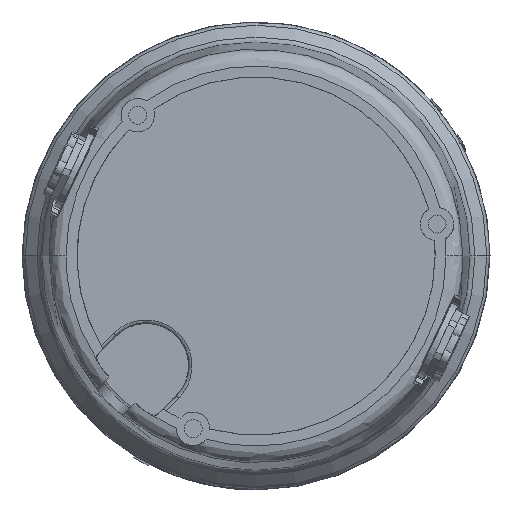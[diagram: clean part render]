
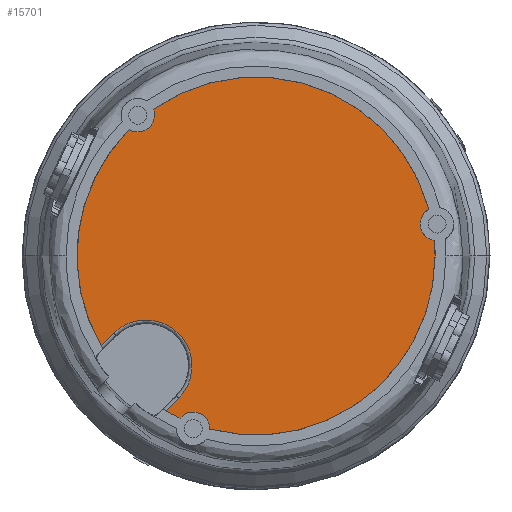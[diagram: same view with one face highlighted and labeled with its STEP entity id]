
A CAD part, front view. The second image highlights one B-rep face of the part: STEP entity #15701.
In plain terms, the highlighted planar face has unit normal (0, -1, 0).
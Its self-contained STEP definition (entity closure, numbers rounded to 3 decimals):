
#190 = CARTESIAN_POINT ( 'NONE',  ( 51.714, -69.5, 13.909 ) ) ;
#879 = VERTEX_POINT ( 'NONE', #6272 ) ;
#1276 = ORIENTED_EDGE ( 'NONE', *, *, #27824, .T. ) ;
#1379 = DIRECTION ( 'NONE',  ( 1., 0., 0. ) ) ;
#1561 = ORIENTED_EDGE ( 'NONE', *, *, #25082, .F. ) ;
#1636 = CIRCLE ( 'NONE', #7147, 5. ) ;
#1658 = VERTEX_POINT ( 'NONE', #8037 ) ;
#2056 = VERTEX_POINT ( 'NONE', #24035 ) ;
#2177 = AXIS2_PLACEMENT_3D ( 'NONE', #6884, #23382, #9237 ) ;
#3351 = ORIENTED_EDGE ( 'NONE', *, *, #17020, .F. ) ;
#3790 = CIRCLE ( 'NONE', #9298, 5. ) ;
#4011 = EDGE_CURVE ( 'NONE', #14540, #1658, #22065, .T. ) ;
#4099 = CIRCLE ( 'NONE', #22173, 53.552 ) ;
#4366 = VERTEX_POINT ( 'NONE', #15728 ) ;
#4374 = CIRCLE ( 'NONE', #2177, 53.552 ) ;
#4604 = CARTESIAN_POINT ( 'NONE',  ( -23.178, -69.5, -42.582 ) ) ;
#4881 = CARTESIAN_POINT ( 'NONE',  ( 0., -69.5, 0. ) ) ;
#5049 = VERTEX_POINT ( 'NONE', #5919 ) ;
#5059 = CARTESIAN_POINT ( 'NONE',  ( -22.678, -69.5, -48.513 ) ) ;
#5208 = DIRECTION ( 'NONE',  ( 0., 1., 0. ) ) ;
#5380 = CARTESIAN_POINT ( 'NONE',  ( -42.582, -69.5, -23.178 ) ) ;
#5515 = ORIENTED_EDGE ( 'NONE', *, *, #23129, .F. ) ;
#5919 = CARTESIAN_POINT ( 'NONE',  ( -13.811, -69.5, -51.683 ) ) ;
#6020 = EDGE_CURVE ( 'NONE', #4366, #26625, #3790, .T. ) ;
#6112 = CARTESIAN_POINT ( 'NONE',  ( -26.901, -69.5, -46.305 ) ) ;
#6176 = DIRECTION ( 'NONE',  ( 0., -1., 0. ) ) ;
#6272 = CARTESIAN_POINT ( 'NONE',  ( -42.582, -69.5, -23.178 ) ) ;
#6884 = CARTESIAN_POINT ( 'NONE',  ( 0., -69.5, 0. ) ) ;
#6960 = CARTESIAN_POINT ( 'NONE',  ( -3.774, -69.5, -23.178 ) ) ;
#6986 = AXIS2_PLACEMENT_3D ( 'NONE', #23096, #8930, #25382 ) ;
#7147 = AXIS2_PLACEMENT_3D ( 'NONE', #12537, #29010, #14896 ) ;
#7238 = DIRECTION ( 'NONE',  ( 1., 0., 0. ) ) ;
#7291 = EDGE_CURVE ( 'NONE', #4366, #26706, #8912, .T. ) ;
#7711 = VERTEX_POINT ( 'NONE', #5059 ) ;
#7816 = CARTESIAN_POINT ( 'NONE',  ( -35.353, -69.5, 42.132 ) ) ;
#8037 = CARTESIAN_POINT ( 'NONE',  ( 53.353, -69.5, 4.617 ) ) ;
#8288 = AXIS2_PLACEMENT_3D ( 'NONE', #29608, #15501, #1379 ) ;
#8577 = CARTESIAN_POINT ( 'NONE',  ( 0., -69.5, 0. ) ) ;
#8912 = CIRCLE ( 'NONE', #28877, 53.552 ) ;
#8930 = DIRECTION ( 'NONE',  ( 0., -1., 0. ) ) ;
#9026 = DIRECTION ( 'NONE',  ( 0., -1., 0. ) ) ;
#9237 = DIRECTION ( 'NONE',  ( 1., 0., 0. ) ) ;
#9298 = AXIS2_PLACEMENT_3D ( 'NONE', #7816, #24269, #10168 ) ;
#9318 = CARTESIAN_POINT ( 'NONE',  ( -42.582, -69.5, -23.178 ) ) ;
#9864 = EDGE_CURVE ( 'NONE', #24661, #1658, #1636, .T. ) ;
#9871 = LINE ( 'NONE', #5380, #27933 ) ;
#10168 = DIRECTION ( 'NONE',  ( 1., 0., 0. ) ) ;
#10564 = CIRCLE ( 'NONE', #6986, 5. ) ;
#10956 = DIRECTION ( 'NONE',  ( 1., 0., 0. ) ) ;
#10966 = CARTESIAN_POINT ( 'NONE',  ( -30.353, -69.5, 42.132 ) ) ;
#11198 = CARTESIAN_POINT ( 'NONE',  ( 0., -69.5, 0. ) ) ;
#12517 = CIRCLE ( 'NONE', #8288, 5. ) ;
#12537 = CARTESIAN_POINT ( 'NONE',  ( 54.164, -69.5, 9.551 ) ) ;
#13552 = DIRECTION ( 'NONE',  ( 1., 0., 0. ) ) ;
#13680 = VERTEX_POINT ( 'NONE', #25888 ) ;
#14540 = VERTEX_POINT ( 'NONE', #15416 ) ;
#14593 = EDGE_CURVE ( 'NONE', #15329, #14540, #25790, .T. ) ;
#14896 = DIRECTION ( 'NONE',  ( 1., 0., 0. ) ) ;
#15119 = AXIS2_PLACEMENT_3D ( 'NONE', #19303, #5208, #21674 ) ;
#15329 = VERTEX_POINT ( 'NONE', #20248 ) ;
#15331 = AXIS2_PLACEMENT_3D ( 'NONE', #23178, #9026, #25482 ) ;
#15416 = CARTESIAN_POINT ( 'NONE',  ( 53.552, -69.5, 0. ) ) ;
#15501 = DIRECTION ( 'NONE',  ( 0., -1., 0. ) ) ;
#15701 = ADVANCED_FACE ( 'NONE', ( #18725 ), #19197, .F. ) ;
#15728 = CARTESIAN_POINT ( 'NONE',  ( -37.903, -69.5, 37.831 ) ) ;
#16875 = AXIS2_PLACEMENT_3D ( 'NONE', #20276, #6176, #22687 ) ;
#16996 = ORIENTED_EDGE ( 'NONE', *, *, #17798, .F. ) ;
#17020 = EDGE_CURVE ( 'NONE', #2056, #879, #27325, .T. ) ;
#17209 = EDGE_CURVE ( 'NONE', #17289, #2056, #19680, .T. ) ;
#17241 = ORIENTED_EDGE ( 'NONE', *, *, #17209, .F. ) ;
#17289 = VERTEX_POINT ( 'NONE', #6112 ) ;
#17609 = EDGE_CURVE ( 'NONE', #879, #26706, #9871, .T. ) ;
#17798 = EDGE_CURVE ( 'NONE', #5049, #7711, #21315, .T. ) ;
#18725 = FACE_OUTER_BOUND ( 'NONE', #25069, .T. ) ;
#18841 = AXIS2_PLACEMENT_3D ( 'NONE', #11198, #27666, #13552 ) ;
#19197 = PLANE ( 'NONE',  #15119 ) ;
#19303 = CARTESIAN_POINT ( 'NONE',  ( 53.552, -69.5, 0. ) ) ;
#19335 = ORIENTED_EDGE ( 'NONE', *, *, #9864, .F. ) ;
#19680 = LINE ( 'NONE', #24522, #28517 ) ;
#19706 = DIRECTION ( 'NONE',  ( 0.707, 0., 0.707 ) ) ;
#20248 = CARTESIAN_POINT ( 'NONE',  ( -13.811, -69.5, -51.74 ) ) ;
#20276 = CARTESIAN_POINT ( 'NONE',  ( -18.811, -69.5, -51.683 ) ) ;
#21315 = CIRCLE ( 'NONE', #16875, 5. ) ;
#21364 = DIRECTION ( 'NONE',  ( 0., -1., 0. ) ) ;
#21674 = DIRECTION ( 'NONE',  ( -1., 0., 0. ) ) ;
#21850 = DIRECTION ( 'NONE',  ( -0.707, 0., -0.707 ) ) ;
#22065 = CIRCLE ( 'NONE', #15331, 53.552 ) ;
#22173 = AXIS2_PLACEMENT_3D ( 'NONE', #8577, #25028, #10956 ) ;
#22687 = DIRECTION ( 'NONE',  ( 1., 0., 0. ) ) ;
#23096 = CARTESIAN_POINT ( 'NONE',  ( -18.811, -69.5, -51.683 ) ) ;
#23129 = EDGE_CURVE ( 'NONE', #26625, #13680, #12517, .T. ) ;
#23178 = CARTESIAN_POINT ( 'NONE',  ( 0., -69.5, 0. ) ) ;
#23382 = DIRECTION ( 'NONE',  ( 0., -1., 0. ) ) ;
#23470 = CARTESIAN_POINT ( 'NONE',  ( -23.178, -69.5, -3.774 ) ) ;
#24035 = CARTESIAN_POINT ( 'NONE',  ( -23.178, -69.5, -42.582 ) ) ;
#24269 = DIRECTION ( 'NONE',  ( 0., -1., 0. ) ) ;
#24332 = ORIENTED_EDGE ( 'NONE', *, *, #4011, .T. ) ;
#24522 = CARTESIAN_POINT ( 'NONE',  ( -26.901, -69.5, -46.305 ) ) ;
#24661 = VERTEX_POINT ( 'NONE', #190 ) ;
#24687 = ORIENTED_EDGE ( 'NONE', *, *, #7291, .T. ) ;
#24991 = ORIENTED_EDGE ( 'NONE', *, *, #30407, .T. ) ;
#25028 = DIRECTION ( 'NONE',  ( 0., -1., 0. ) ) ;
#25069 = EDGE_LOOP ( 'NONE', ( #26476, #3351, #17241, #24991, #16996, #1561, #28190, #24332, #19335, #1276, #5515, #25424, #24687 ) ) ;
#25082 = EDGE_CURVE ( 'NONE', #15329, #5049, #10564, .T. ) ;
#25382 = DIRECTION ( 'NONE',  ( 1., 0., 0. ) ) ;
#25424 = ORIENTED_EDGE ( 'NONE', *, *, #6020, .F. ) ;
#25482 = DIRECTION ( 'NONE',  ( 1., 0., 0. ) ) ;
#25790 = CIRCLE ( 'NONE', #18841, 53.552 ) ;
#25888 = CARTESIAN_POINT ( 'NONE',  ( -30.675, -69.5, 43.896 ) ) ;
#26476 = ORIENTED_EDGE ( 'NONE', *, *, #17609, .F. ) ;
#26625 = VERTEX_POINT ( 'NONE', #10966 ) ;
#26706 = VERTEX_POINT ( 'NONE', #27631 ) ;
#27325 =( BOUNDED_CURVE ( )  B_SPLINE_CURVE ( 3, ( #4604, #6960, #23470, #9318 ),
 .UNSPECIFIED., .F., .F. ) 
 B_SPLINE_CURVE_WITH_KNOTS ( ( 4, 4 ),
 ( 0., 1. ),
 .UNSPECIFIED. ) 
 CURVE ( )  GEOMETRIC_REPRESENTATION_ITEM ( )  RATIONAL_B_SPLINE_CURVE ( ( 1., 0.333, 0.333, 1. ) ) 
 REPRESENTATION_ITEM ( '' )  );
#27631 = CARTESIAN_POINT ( 'NONE',  ( -46.305, -69.5, -26.901 ) ) ;
#27666 = DIRECTION ( 'NONE',  ( 0., -1., 0. ) ) ;
#27824 = EDGE_CURVE ( 'NONE', #24661, #13680, #4374, .T. ) ;
#27933 = VECTOR ( 'NONE', #21850, 1000. ) ;
#28190 = ORIENTED_EDGE ( 'NONE', *, *, #14593, .T. ) ;
#28517 = VECTOR ( 'NONE', #19706, 1000. ) ;
#28877 = AXIS2_PLACEMENT_3D ( 'NONE', #4881, #21364, #7238 ) ;
#29010 = DIRECTION ( 'NONE',  ( 0., -1., 0. ) ) ;
#29608 = CARTESIAN_POINT ( 'NONE',  ( -35.353, -69.5, 42.132 ) ) ;
#30407 = EDGE_CURVE ( 'NONE', #17289, #7711, #4099, .T. ) ;
